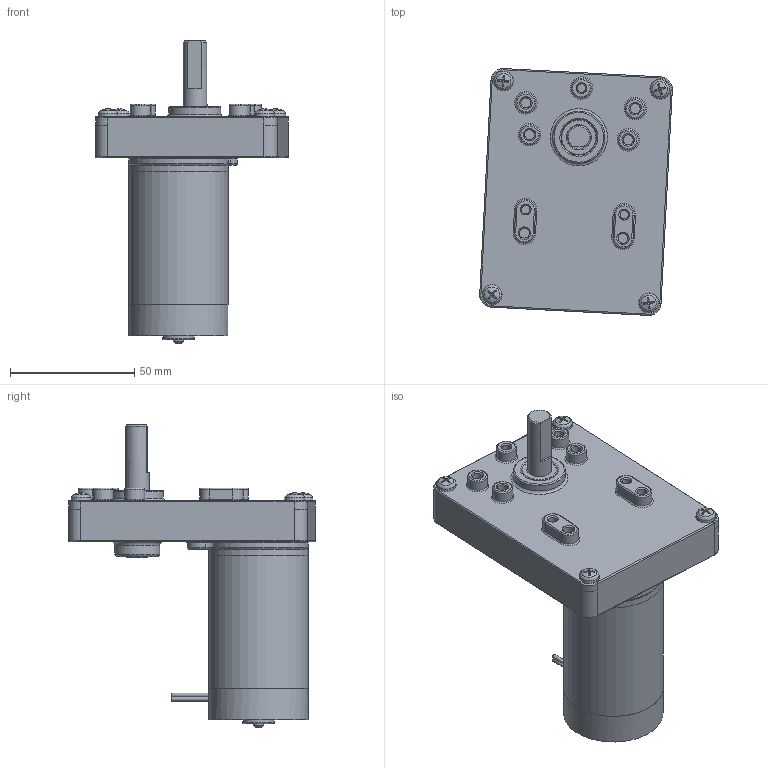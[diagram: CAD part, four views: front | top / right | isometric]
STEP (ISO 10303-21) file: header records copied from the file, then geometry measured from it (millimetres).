
FILE_DESCRIPTION(/* description */ (''),/* implementation_level */ '2;1');
FILE_NAME(/* name */ 'C:\Users\byjeong\Desktop\3D도면\SP45BL.stp',/* time_stamp */ '2015-03-31T15:25:14+09:00',/* author */ ('byjeong'),/* organization */ (''),/* preprocessor_version */ 'ST-DEVELOPER v15.6',/* originating_system */ 'Autodesk Inventor 2015',/* authorisation */ '');
FILE_SCHEMA (('AUTOMOTIVE_DESIGN { 1 0 10303 214 3 1 1 }'));
Length unit declared in the file: millimetre
Products named in the file (10): SQ BOX ASSY; RM4TYPE_FRONT_HOUSING_; RM4TYPE_PIPE_HOUSING_pi40XL53.5; RM45TYPE_SHAFT; AS 1427 Z - 미터 M3.5 x 5; RM4TYPE_BRUSH_BRAKET_LEAD; RM4TYPE_REAR_HOUSING; REAR_HOUSING__ASS'Y_LEAD; RM45ㅁBL; 조립품23
Bounding box: 77.42 x 99.18 x 121.47 mm (x, y, z)
Volume: 149929.5 mm3; surface area: 48489.6 mm2
Topology: 14 solids, 14 shells, 464 faces, 1064 edges, 664 vertices
Faces by surface type: plane 152, cone 119, cylinder 108, torus 78, sphere 4, bspline 3
Full cylindrical faces by diameter (mm): 1.6 x2, 2.7 x4, 2.8 x4, 3.132 x2, 3.3 x4, 3.4 x3, 3.5 x3, 3.571 x3, 3.7 x2, 3.9 x1, 3.969 x1, 4 x10, 4.4 x3, 5 x1, 6.1 x2, 6.5 x1, 6.65 x1, 8 x5, 9.5 x3, 12.7 x3, 13.5 x2, 14.3 x1, 18 x1, 21 x1, 36.5 x1, 40 x3
Entity records: 11819 total; most frequent: CARTESIAN_POINT 2825, DIRECTION 1953, ORIENTED_EDGE 1582, AXIS2_PLACEMENT_3D 889, EDGE_CURVE 790, EDGE_LOOP 635, VERTEX_POINT 570, CIRCLE 441
